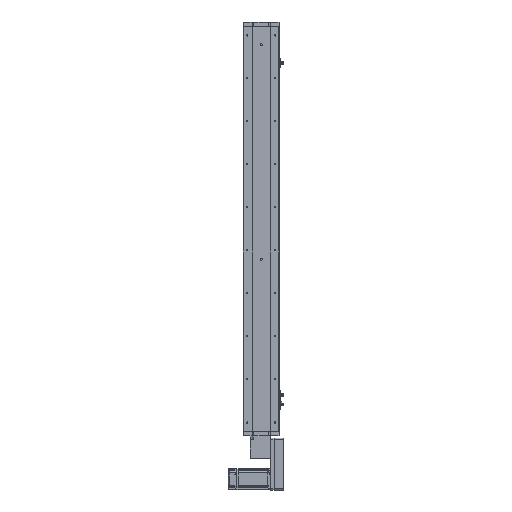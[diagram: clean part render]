
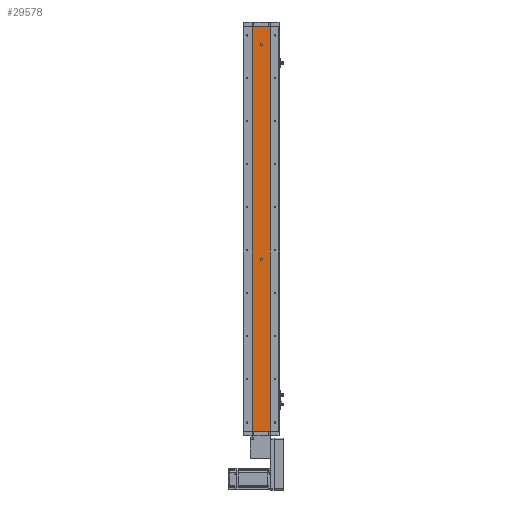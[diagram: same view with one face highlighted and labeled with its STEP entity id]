
A CAD part, left-side view. The second image highlights one B-rep face of the part: STEP entity #29578.
In plain terms, the highlighted planar face has unit normal (-1, 0, 0).
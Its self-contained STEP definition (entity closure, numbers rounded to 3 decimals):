
#670 = AXIS2_PLACEMENT_3D ( 'NONE', #18467, #56032, #23839 ) ;
#2924 = CARTESIAN_POINT ( 'NONE',  ( -18.926, 24.785, 1130. ) ) ;
#3450 = VECTOR ( 'NONE', #45749, 1000. ) ;
#4292 = ORIENTED_EDGE ( 'NONE', *, *, #31400, .F. ) ;
#4458 = DIRECTION ( 'NONE',  ( -1., 0., 0. ) ) ;
#4750 = CARTESIAN_POINT ( 'NONE',  ( -18.926, 0., 483. ) ) ;
#4886 = FACE_BOUND ( 'NONE', #38755, .T. ) ;
#7502 = ORIENTED_EDGE ( 'NONE', *, *, #13973, .F. ) ;
#7738 = CARTESIAN_POINT ( 'NONE',  ( -18.926, 24.785, 0. ) ) ;
#8267 = EDGE_CURVE ( 'NONE', #36437, #41496, #16175, .T. ) ;
#8388 = LINE ( 'NONE', #52836, #22694 ) ;
#8623 = VERTEX_POINT ( 'NONE', #18059 ) ;
#10510 = VERTEX_POINT ( 'NONE', #7738 ) ;
#10998 = CARTESIAN_POINT ( 'NONE',  ( -18.926, 24.785, 1130. ) ) ;
#12978 = ORIENTED_EDGE ( 'NONE', *, *, #35106, .F. ) ;
#13133 = VECTOR ( 'NONE', #64999, 1000. ) ;
#13185 = CARTESIAN_POINT ( 'NONE',  ( -18.926, 0., 480. ) ) ;
#13331 = ORIENTED_EDGE ( 'NONE', *, *, #8267, .F. ) ;
#13465 = CARTESIAN_POINT ( 'NONE',  ( -18.926, 0., 477. ) ) ;
#13856 = AXIS2_PLACEMENT_3D ( 'NONE', #19540, #57085, #24917 ) ;
#13973 = EDGE_CURVE ( 'NONE', #41496, #36437, #64024, .T. ) ;
#15221 = DIRECTION ( 'NONE',  ( 0., 0., -1. ) ) ;
#15711 = VERTEX_POINT ( 'NONE', #20430 ) ;
#15754 = VERTEX_POINT ( 'NONE', #20673 ) ;
#16175 = CIRCLE ( 'NONE', #36417, 3. ) ;
#16438 = ORIENTED_EDGE ( 'NONE', *, *, #57771, .F. ) ;
#18059 = CARTESIAN_POINT ( 'NONE',  ( -18.926, -24.785, 0. ) ) ;
#18376 = DIRECTION ( 'NONE',  ( 1., 0., 0. ) ) ;
#18467 = CARTESIAN_POINT ( 'NONE',  ( -18.926, 0., 1080. ) ) ;
#18643 = DIRECTION ( 'NONE',  ( 0., 0., 1. ) ) ;
#19218 = FACE_BOUND ( 'NONE', #52040, .T. ) ;
#19540 = CARTESIAN_POINT ( 'NONE',  ( -18.926, 0., 1080. ) ) ;
#20074 = VERTEX_POINT ( 'NONE', #10998 ) ;
#20430 = CARTESIAN_POINT ( 'NONE',  ( -18.926, 0., 1077. ) ) ;
#20673 = CARTESIAN_POINT ( 'NONE',  ( -18.926, 0., 1083. ) ) ;
#20898 = EDGE_CURVE ( 'NONE', #15754, #15711, #48389, .T. ) ;
#22694 = VECTOR ( 'NONE', #15221, 1000. ) ;
#23839 = DIRECTION ( 'NONE',  ( 0., 0., 1. ) ) ;
#24917 = DIRECTION ( 'NONE',  ( 0., 0., 1. ) ) ;
#26909 = EDGE_LOOP ( 'NONE', ( #36708, #12978, #16438, #56677 ) ) ;
#27456 = LINE ( 'NONE', #48889, #13133 ) ;
#29578 = ADVANCED_FACE ( 'NONE', ( #19218, #4886, #60362 ), #44929, .F. ) ;
#31400 = EDGE_CURVE ( 'NONE', #15711, #15754, #62431, .T. ) ;
#35106 = EDGE_CURVE ( 'NONE', #52752, #8623, #8388, .T. ) ;
#36417 = AXIS2_PLACEMENT_3D ( 'NONE', #36733, #4458, #42101 ) ;
#36437 = VERTEX_POINT ( 'NONE', #13465 ) ;
#36708 = ORIENTED_EDGE ( 'NONE', *, *, #65399, .T. ) ;
#36733 = CARTESIAN_POINT ( 'NONE',  ( -18.926, 0., 480. ) ) ;
#37997 = LINE ( 'NONE', #2924, #3450 ) ;
#38755 = EDGE_LOOP ( 'NONE', ( #49526, #4292 ) ) ;
#40035 = LINE ( 'NONE', #58402, #66803 ) ;
#41496 = VERTEX_POINT ( 'NONE', #4750 ) ;
#42101 = DIRECTION ( 'NONE',  ( 0., 0., 1. ) ) ;
#42501 = DIRECTION ( 'NONE',  ( 0., 0., -1. ) ) ;
#44929 = PLANE ( 'NONE',  #68108 ) ;
#45097 = EDGE_CURVE ( 'NONE', #20074, #10510, #40035, .T. ) ;
#45749 = DIRECTION ( 'NONE',  ( 0., -1., 0. ) ) ;
#46391 = CARTESIAN_POINT ( 'NONE',  ( -18.926, -24.785, 1130. ) ) ;
#48389 = CIRCLE ( 'NONE', #670, 3. ) ;
#48889 = CARTESIAN_POINT ( 'NONE',  ( -18.926, 24.785, 0. ) ) ;
#49526 = ORIENTED_EDGE ( 'NONE', *, *, #20898, .F. ) ;
#50566 = CARTESIAN_POINT ( 'NONE',  ( -18.926, 24.785, 1130. ) ) ;
#50807 = DIRECTION ( 'NONE',  ( -1., 0., 0. ) ) ;
#52040 = EDGE_LOOP ( 'NONE', ( #7502, #13331 ) ) ;
#52752 = VERTEX_POINT ( 'NONE', #46391 ) ;
#52836 = CARTESIAN_POINT ( 'NONE',  ( -18.926, -24.785, 1130. ) ) ;
#55929 = DIRECTION ( 'NONE',  ( 0., 0., -1. ) ) ;
#56032 = DIRECTION ( 'NONE',  ( -1., 0., 0. ) ) ;
#56677 = ORIENTED_EDGE ( 'NONE', *, *, #45097, .T. ) ;
#57085 = DIRECTION ( 'NONE',  ( -1., 0., 0. ) ) ;
#57771 = EDGE_CURVE ( 'NONE', #20074, #52752, #37997, .T. ) ;
#58402 = CARTESIAN_POINT ( 'NONE',  ( -18.926, 24.785, 1130. ) ) ;
#60362 = FACE_OUTER_BOUND ( 'NONE', #26909, .T. ) ;
#61438 = AXIS2_PLACEMENT_3D ( 'NONE', #13185, #50807, #18643 ) ;
#62431 = CIRCLE ( 'NONE', #13856, 3. ) ;
#64024 = CIRCLE ( 'NONE', #61438, 3. ) ;
#64999 = DIRECTION ( 'NONE',  ( 0., -1., 0. ) ) ;
#65399 = EDGE_CURVE ( 'NONE', #10510, #8623, #27456, .T. ) ;
#66803 = VECTOR ( 'NONE', #42501, 1000. ) ;
#68108 = AXIS2_PLACEMENT_3D ( 'NONE', #50566, #18376, #55929 ) ;
